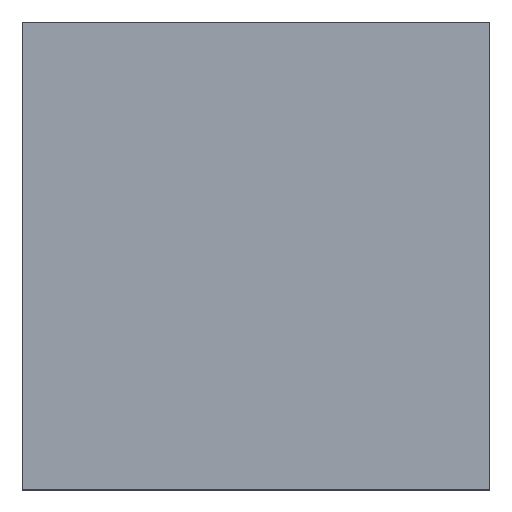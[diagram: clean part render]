
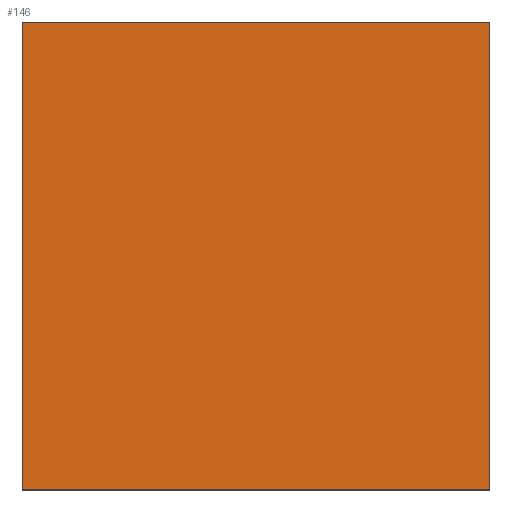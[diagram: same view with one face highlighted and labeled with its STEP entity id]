
A CAD part, top view. The second image highlights one B-rep face of the part: STEP entity #146.
In plain terms, the highlighted planar face has unit normal (0, 0, 1).
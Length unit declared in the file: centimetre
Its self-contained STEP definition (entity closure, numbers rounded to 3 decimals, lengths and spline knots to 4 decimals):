
#146 = ADVANCED_FACE ( 'NONE', ( #267 ), #483, .T. ) ;
#190 = CARTESIAN_POINT ( 'NONE',  ( 0., 0., 1000. ) ) ;
#267 = FACE_OUTER_BOUND ( 'NONE', #339, .T. ) ;
#280 = CARTESIAN_POINT ( 'NONE',  ( 1000., 0., 1000. ) ) ;
#307 = CARTESIAN_POINT ( 'NONE',  ( 0., 0., 1000. ) ) ;
#339 = EDGE_LOOP ( 'NONE', ( #432, #868, #653, #751 ) ) ;
#370 = CARTESIAN_POINT ( 'NONE',  ( 0., 1000., 1000. ) ) ;
#425 = VERTEX_POINT ( 'NONE', #307 ) ;
#432 = ORIENTED_EDGE ( 'NONE', *, *, #1249, .T. ) ;
#463 = CARTESIAN_POINT ( 'NONE',  ( 1000., 1000., 1000. ) ) ;
#483 = PLANE ( 'NONE',  #1048 ) ;
#518 = LINE ( 'NONE', #924, #941 ) ;
#571 = DIRECTION ( 'NONE',  ( 0., -1., 0. ) ) ;
#584 = LINE ( 'NONE', #775, #643 ) ;
#599 = EDGE_CURVE ( 'NONE', #933, #660, #518, .T. ) ;
#643 = VECTOR ( 'NONE', #1167, 100. ) ;
#653 = ORIENTED_EDGE ( 'NONE', *, *, #813, .T. ) ;
#660 = VERTEX_POINT ( 'NONE', #1106 ) ;
#688 = CARTESIAN_POINT ( 'NONE',  ( 1000., 1000., 1000. ) ) ;
#701 = DIRECTION ( 'NONE',  ( 0., 1., 0. ) ) ;
#711 = VECTOR ( 'NONE', #701, 100. ) ;
#751 = ORIENTED_EDGE ( 'NONE', *, *, #599, .T. ) ;
#775 = CARTESIAN_POINT ( 'NONE',  ( 0., 0., 1000. ) ) ;
#813 = EDGE_CURVE ( 'NONE', #1172, #933, #1109, .T. ) ;
#868 = ORIENTED_EDGE ( 'NONE', *, *, #1189, .T. ) ;
#903 = VECTOR ( 'NONE', #571, 100. ) ;
#924 = CARTESIAN_POINT ( 'NONE',  ( 0., 1000., 1000. ) ) ;
#933 = VERTEX_POINT ( 'NONE', #463 ) ;
#941 = VECTOR ( 'NONE', #1142, 100. ) ;
#1000 = DIRECTION ( 'NONE',  ( 1., 0., 0. ) ) ;
#1048 = AXIS2_PLACEMENT_3D ( 'NONE', #190, #1087, #1000 ) ;
#1087 = DIRECTION ( 'NONE',  ( 0., 0., 1. ) ) ;
#1106 = CARTESIAN_POINT ( 'NONE',  ( 0., 1000., 1000. ) ) ;
#1109 = LINE ( 'NONE', #688, #711 ) ;
#1142 = DIRECTION ( 'NONE',  ( -1., 0., 0. ) ) ;
#1167 = DIRECTION ( 'NONE',  ( 1., 0., 0. ) ) ;
#1172 = VERTEX_POINT ( 'NONE', #280 ) ;
#1189 = EDGE_CURVE ( 'NONE', #425, #1172, #584, .T. ) ;
#1249 = EDGE_CURVE ( 'NONE', #660, #425, #1254, .T. ) ;
#1254 = LINE ( 'NONE', #370, #903 ) ;
